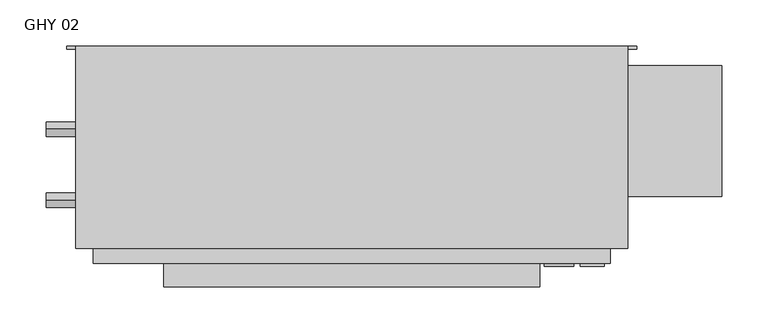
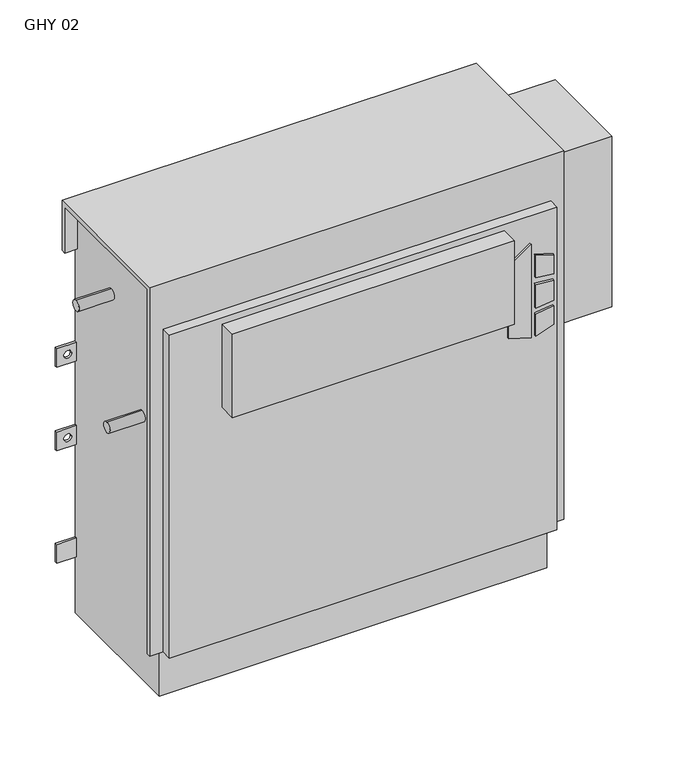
"""IFC4 building model written with IfcOpenShell, lengths in millimetres: proxy geometry, Vertical_Fan_Coil_Unit_-_GHY_-_IEC_-_2-Pipe_FS-FR_LH_2022 : GHY 02."""

from ifc_helpers import new_model, si_unit, point, frame, frame_2d, origin, place, context, project, spatial, polyline, circle_curve, trimmed, segment, composite_curve, outline, extrude, source, transform, mapped, element, save
from ifc_brep_helpers import plane_surface, revolved_surface, advanced_brep


def ghy_02_9b4a4b5f(model_context):
    return source(origin(), model_context, "Body", "SolidModel", [
        extrude(outline(polyline([(391.6086829, 360.4368862), (381.6606126, 392.6102728), (523.831537, 392.6102728), (500.8095309, 360.4368862), (391.6086829, 360.4368862)])), frame((0.0, 6.35, 0.0), z_axis=(0.0, 1.0, 0.0), x_axis=(0.0, 0.0, 1.0)), (0.0, 0.0, 1.0), 3.175),
        extrude(outline(polyline([(470.6079683, 399.3686058), (467.4055757, 425.45), (496.6344168, 425.45), (504.6988318, 399.3686058), (470.6079683, 399.3686058)])), frame((0.0, 6.35, 0.0), z_axis=(0.0, 1.0, 0.0), x_axis=(0.0, 0.0, 1.0)), (0.0, 0.0, 1.0), 3.175),
        extrude(outline(polyline([(418.7444414, 425.45), (415.0789404, 399.3686058), (381.6606126, 399.3686058), (390.2948498, 425.45), (418.7444414, 425.45)])), frame((0.0, 6.35, 0.0), z_axis=(0.0, 1.0, 0.0), x_axis=(0.0, 0.0, 1.0)), (0.0, 0.0, 1.0), 3.175),
        extrude(outline(polyline([(458.0596028, 425.45), (460.3414292, 399.3686058), (424.4038806, 399.3686058), (427.1451456, 425.45), (458.0596028, 425.45)])), frame((0.0, 6.35, 0.0), z_axis=(0.0, 1.0, 0.0), x_axis=(0.0, 0.0, 1.0)), (0.0, 0.0, 1.0), 3.175),
        extrude(outline(polyline([(355.6, -15.875), (-50.8, -15.875), (-50.8, 9.525), (355.6, 9.525), (355.6, -15.875)])), frame((0.0, 0.0, 428.625), z_axis=(0.0, 0.0, 1.0), x_axis=(1.0, 0.0, 0.0)), (0.0, 0.0, 1.0), 127.0),
        extrude(outline(composite_curve([segment(trimmed(circle_curve(frame_2d((77.597, 401.574)), 7.9375), [point((77.597, 409.5115))], [point((77.597, 393.6365))], False, "CARTESIAN"), True, "CONTINUOUS"), segment(trimmed(circle_curve(frame_2d((77.597, 401.574)), 7.9375), [point((77.597, 393.6365))], [point((77.597, 409.5115))], False, "CARTESIAN"), True, "CONTINUOUS")], self_intersect=False)), frame((-177.8, 0.0, 0.0), z_axis=(1.0, 0.0, 0.0), x_axis=(0.0, 1.0, 0.0)), (0.0, 0.0, 1.0), 50.8),
        extrude(outline(composite_curve([segment(trimmed(circle_curve(frame_2d((154.559, 540.512)), 7.9375), [point((154.559, 548.4495))], [point((154.559, 532.5745))], False, "CARTESIAN"), True, "CONTINUOUS"), segment(trimmed(circle_curve(frame_2d((154.559, 540.512)), 7.9375), [point((154.559, 532.5745))], [point((154.559, 548.4495))], False, "CARTESIAN"), True, "CONTINUOUS")], self_intersect=False)), frame((-177.8, 0.0, 0.0), z_axis=(1.0, 0.0, 0.0), x_axis=(0.0, 1.0, 0.0)), (0.0, 0.0, 1.0), 50.8),
        extrude(outline(polyline([(552.45, 223.266), (552.45, 81.534), (431.8, 81.534), (431.8, 223.266), (552.45, 223.266)])), frame((0.0, 0.0, 327.025), z_axis=(0.0, 0.0, 1.0), x_axis=(1.0, 0.0, 0.0)), (0.0, 0.0, 1.0), 260.35),
        advanced_brep(
        [(450.85, 244.475, 635.0), (-146.05, 244.475, 635.0), (-146.05, 25.4, 635.0), (450.85, 25.4, 635.0), (-127.0, 244.475, 0.0), (431.8, 244.475, 0.0), (431.8, 34.925, 0.0), (-127.0, 34.925, 0.0), (450.85, 244.475, 558.8), (431.8, 244.475, 558.8), (431.8, 244.475, 414.3375), (460.375, 244.475, 414.3375), (460.375, 244.475, 385.7625), (431.8, 244.475, 385.7625), (431.8, 244.475, 287.3375), (460.375, 244.475, 287.3375), (460.375, 244.475, 258.7625), (431.8, 244.475, 258.7625), (431.8, 244.475, 141.2875), (460.375, 244.475, 141.2875), (460.375, 244.475, 112.7125), (431.8, 244.475, 112.7125), (-127.0, 244.475, 87.3125), (-155.575, 244.475, 87.3125), (-155.575, 244.475, 115.8875), (-127.0, 244.475, 115.8875), (-127.0, 244.475, 258.7625), (-155.575, 244.475, 258.7625), (-155.575, 244.475, 287.3375), (-127.0, 244.475, 287.3375), (-127.0, 244.475, 385.7625), (-155.575, 244.475, 385.7625), (-155.575, 244.475, 414.3375), (-127.0, 244.475, 414.3375), (-127.0, 244.475, 558.8), (-146.05, 244.475, 558.8), (450.0626, 244.475, 127.0), (438.9374, 244.475, 127.0), (450.0626, 244.475, 273.05), (438.9374, 244.475, 273.05), (-134.1374, 244.475, 273.05), (-145.2626, 244.475, 273.05), (450.0626, 244.475, 400.05), (438.9374, 244.475, 400.05), (-134.1374, 244.475, 400.05), (-145.2626, 244.475, 400.05), (-146.05, 238.125, 558.8), (-146.05, 238.125, 628.65), (-146.05, 31.75, 628.65), (-146.05, 31.75, 73.025), (-146.05, 25.4, 73.025), (431.8, 9.525, 565.15), (-127.0, 9.525, 565.15), (-127.0, 9.525, 73.025), (431.8, 9.525, 73.025), (450.85, 25.4, 73.025), (450.85, 31.75, 73.025), (450.85, 31.75, 628.65), (450.85, 238.125, 628.65), (450.85, 238.125, 558.8), (-127.0, 25.4, 73.025), (-127.0, 25.4, 565.15), (431.8, 25.4, 565.15), (431.8, 25.4, 73.025), (-127.0, 31.75, 73.025), (-127.0, 34.925, 73.025), (431.8, 34.925, 73.025), (431.8, 31.75, 73.025), (431.8, 241.3, 112.7125), (431.8, 241.3, 141.2875), (431.8, 241.3, 258.7625), (431.8, 241.3, 287.3375), (431.8, 241.3, 385.7625), (431.8, 241.3, 414.3375), (431.8, 238.125, 558.8), (431.8, 238.125, 628.65), (431.8, 31.75, 628.65), (-127.0, 31.75, 628.65), (-127.0, 238.125, 628.65), (-127.0, 238.125, 558.8), (-127.0, 241.3, 414.3375), (-127.0, 241.3, 385.7625), (-127.0, 241.3, 287.3375), (-127.0, 241.3, 258.7625), (-127.0, 241.3, 115.8875), (-127.0, 241.3, 87.3125), (460.375, 241.3, 112.7125), (460.375, 241.3, 141.2875), (438.9374, 241.3, 127.0), (450.0626, 241.3, 127.0), (460.375, 241.3, 258.7625), (460.375, 241.3, 287.3375), (438.9374, 241.3, 273.05), (450.0626, 241.3, 273.05), (460.375, 241.3, 385.7625), (460.375, 241.3, 414.3375), (438.9374, 241.3, 400.05), (450.0626, 241.3, 400.05), (-155.575, 241.3, 115.8875), (-155.575, 241.3, 87.3125), (-155.575, 241.3, 287.3375), (-155.575, 241.3, 258.7625), (-145.2626, 241.3, 273.05), (-134.1374, 241.3, 273.05), (-155.575, 241.3, 414.3375), (-155.575, 241.3, 385.7625), (-145.2626, 241.3, 400.05), (-134.1374, 241.3, 400.05)],
        [
            (0, 1),
            (1, 2),
            (2, 3),
            (3, 0),
            (4, 5),
            (5, 6),
            (6, 7),
            (7, 4),
            (0, 8),
            (8, 9),
            (9, 10),
            (10, 11),
            (11, 12),
            (12, 13),
            (13, 14),
            (14, 15),
            (15, 16),
            (16, 17),
            (17, 18),
            (18, 19),
            (19, 20),
            (20, 21),
            (21, 5),
            (4, 22),
            (22, 23),
            (23, 24),
            (24, 25),
            (25, 26),
            (26, 27),
            (27, 28),
            (28, 29),
            (29, 30),
            (30, 31),
            (31, 32),
            (32, 33),
            (33, 34),
            (34, 35),
            (35, 1),
            (36, 37, circle_curve(frame((444.5, 244.475, 127.0), z_axis=(0.0, -1.0, 0.0), x_axis=(-1.0, 0.0, 0.0)), 5.5626)),
            (37, 36, circle_curve(frame((444.5, 244.475, 127.0), z_axis=(0.0, -1.0, 0.0), x_axis=(-1.0, 0.0, 0.0)), 5.5626)),
            (38, 39, circle_curve(frame((444.5, 244.475, 273.05), z_axis=(0.0, -1.0, 0.0), x_axis=(-1.0, 0.0, 0.0)), 5.5626)),
            (39, 38, circle_curve(frame((444.5, 244.475, 273.05), z_axis=(0.0, -1.0, 0.0), x_axis=(-1.0, 0.0, 0.0)), 5.5626)),
            (40, 41, circle_curve(frame((-139.7, 244.475, 273.05), z_axis=(0.0, -1.0, 0.0), x_axis=(-1.0, 0.0, 0.0)), 5.5626)),
            (41, 40, circle_curve(frame((-139.7, 244.475, 273.05), z_axis=(0.0, -1.0, 0.0), x_axis=(-1.0, 0.0, 0.0)), 5.5626)),
            (42, 43, circle_curve(frame((444.5, 244.475, 400.05), z_axis=(0.0, -1.0, 0.0), x_axis=(-1.0, 0.0, 0.0)), 5.5626)),
            (43, 42, circle_curve(frame((444.5, 244.475, 400.05), z_axis=(0.0, -1.0, 0.0), x_axis=(-1.0, 0.0, 0.0)), 5.5626)),
            (44, 45, circle_curve(frame((-139.7, 244.475, 400.05), z_axis=(0.0, -1.0, 0.0), x_axis=(-1.0, 0.0, 0.0)), 5.5626)),
            (45, 44, circle_curve(frame((-139.7, 244.475, 400.05), z_axis=(0.0, -1.0, 0.0), x_axis=(-1.0, 0.0, 0.0)), 5.5626)),
            (35, 46),
            (46, 47),
            (47, 48),
            (48, 49),
            (49, 50),
            (50, 2),
            (51, 52),
            (52, 53),
            (53, 54),
            (54, 51),
            (3, 55),
            (55, 56),
            (56, 57),
            (57, 58),
            (58, 59),
            (59, 8),
            (50, 60),
            (60, 61),
            (61, 62),
            (62, 63),
            (63, 55),
            (51, 62),
            (61, 52),
            (53, 60),
            (49, 64),
            (64, 65),
            (65, 66),
            (66, 67),
            (67, 56),
            (63, 54),
            (6, 66),
            (65, 7),
            (21, 68),
            (68, 69),
            (69, 18),
            (17, 70),
            (70, 71),
            (71, 14),
            (13, 72),
            (72, 73),
            (73, 10),
            (9, 74),
            (74, 75),
            (75, 76),
            (76, 67),
            (64, 77),
            (77, 78),
            (78, 79),
            (79, 34),
            (33, 80),
            (80, 81),
            (81, 30),
            (29, 82),
            (82, 83),
            (83, 26),
            (25, 84),
            (84, 85),
            (85, 22),
            (74, 59),
            (58, 75),
            (76, 57),
            (48, 77),
            (79, 46),
            (78, 47),
            (68, 86),
            (86, 87),
            (87, 69),
            (88, 89, circle_curve(frame((444.5, 241.3, 127.0), z_axis=(0.0, 1.0, 0.0), x_axis=(-1.0, 0.0, 0.0)), 5.5626)),
            (89, 88, circle_curve(frame((444.5, 241.3, 127.0), z_axis=(0.0, 1.0, 0.0), x_axis=(-1.0, 0.0, 0.0)), 5.5626)),
            (90, 91),
            (91, 71),
            (70, 90),
            (92, 93, circle_curve(frame((444.5, 241.3, 273.05), z_axis=(0.0, 1.0, 0.0), x_axis=(-1.0, 0.0, 0.0)), 5.5626)),
            (93, 92, circle_curve(frame((444.5, 241.3, 273.05), z_axis=(0.0, 1.0, 0.0), x_axis=(-1.0, 0.0, 0.0)), 5.5626)),
            (94, 95),
            (95, 73),
            (72, 94),
            (96, 97, circle_curve(frame((444.5, 241.3, 400.05), z_axis=(0.0, 1.0, 0.0), x_axis=(-1.0, 0.0, 0.0)), 5.5626)),
            (97, 96, circle_curve(frame((444.5, 241.3, 400.05), z_axis=(0.0, 1.0, 0.0), x_axis=(-1.0, 0.0, 0.0)), 5.5626)),
            (98, 99),
            (99, 85),
            (84, 98),
            (82, 100),
            (100, 101),
            (101, 83),
            (102, 103, circle_curve(frame((-139.7, 241.3, 273.05), z_axis=(0.0, 1.0, 0.0), x_axis=(-1.0, 0.0, 0.0)), 5.5626)),
            (103, 102, circle_curve(frame((-139.7, 241.3, 273.05), z_axis=(0.0, 1.0, 0.0), x_axis=(-1.0, 0.0, 0.0)), 5.5626)),
            (104, 105),
            (105, 81),
            (80, 104),
            (106, 107, circle_curve(frame((-139.7, 241.3, 400.05), z_axis=(0.0, 1.0, 0.0), x_axis=(-1.0, 0.0, 0.0)), 5.5626)),
            (107, 106, circle_curve(frame((-139.7, 241.3, 400.05), z_axis=(0.0, 1.0, 0.0), x_axis=(-1.0, 0.0, 0.0)), 5.5626)),
            (87, 19),
            (86, 20),
            (16, 90),
            (91, 15),
            (12, 94),
            (95, 11),
            (24, 98),
            (99, 23),
            (101, 27),
            (100, 28),
            (32, 104),
            (105, 31),
            (88, 37),
            (36, 89),
            (92, 39),
            (38, 93),
            (102, 41),
            (40, 103),
            (96, 43),
            (42, 97),
            (106, 45),
            (44, 107),
        ],
        [
            plane_surface(frame((-146.05, 244.475, 635.0), z_axis=(0.0, 0.0, 1.0), x_axis=(-1.0, 0.0, 0.0))),
            plane_surface(frame((-146.05, 244.475, 0.0), z_axis=(0.0, 0.0, -1.0), x_axis=(1.0, 0.0, 0.0))),
            plane_surface(frame((450.85, 244.475, 635.0), z_axis=(0.0, 1.0, 0.0), x_axis=(0.0, 0.0, -1.0))),
            plane_surface(frame((-146.05, 244.475, 635.0), z_axis=(-1.0, 0.0, 0.0), x_axis=(0.0, 0.0, -1.0))),
            plane_surface(frame((-146.05, 9.525, 635.0), z_axis=(0.0, -1.0, 0.0), x_axis=(0.0, 0.0, -1.0))),
            plane_surface(frame((450.85, 9.525, 635.0), z_axis=(1.0, 0.0, 0.0), x_axis=(0.0, 0.0, -1.0))),
            plane_surface(frame((-146.05, 25.4, 635.0), z_axis=(0.0, -1.0, 0.0), x_axis=(1.0, 0.0, 0.0))),
            plane_surface(frame((-146.05, 25.4, 565.15), z_axis=(0.0, 0.0, 1.0), x_axis=(1.0, 0.0, 0.0))),
            plane_surface(frame((-146.05, 9.525, 73.025), z_axis=(0.0, 0.0, -1.0), x_axis=(1.0, 0.0, 0.0))),
            plane_surface(frame((-146.05, 34.925, 73.025), z_axis=(0.0, -1.0, 0.0), x_axis=(1.0, 0.0, 0.0))),
            plane_surface(frame((431.8, 25.4, 73.025), z_axis=(1.0, 0.0, 0.0), x_axis=(0.0, -1.0, 0.0))),
            plane_surface(frame((-127.0, 25.4, 565.15), z_axis=(-1.0, 0.0, 0.0), x_axis=(0.0, -1.0, 0.0))),
            plane_surface(frame((431.8, 244.475, 0.0), z_axis=(1.0, 0.0, 0.0), x_axis=(0.0, -1.0, 0.0))),
            plane_surface(frame((-127.0, 244.475, 73.025), z_axis=(-1.0, 0.0, 0.0), x_axis=(0.0, -1.0, 0.0))),
            plane_surface(frame((431.8, 238.125, 628.65), z_axis=(0.0, -1.0, 0.0), x_axis=(1.0, 0.0, 0.0))),
            plane_surface(frame((431.8, 238.125, 558.8), z_axis=(0.0, 0.0, -1.0), x_axis=(1.0, 0.0, 0.0))),
            plane_surface(frame((431.8, 31.75, 73.025), z_axis=(0.0, 1.0, 0.0), x_axis=(1.0, 0.0, 0.0))),
            plane_surface(frame((431.8, 31.75, 628.65), z_axis=(0.0, 0.0, -1.0), x_axis=(1.0, 0.0, 0.0))),
            plane_surface(frame((-127.0, 31.75, 628.65), z_axis=(0.0, 1.0, 0.0), x_axis=(-1.0, 0.0, 0.0))),
            plane_surface(frame((-127.0, 244.475, 558.8), z_axis=(0.0, 0.0, -1.0), x_axis=(-1.0, 0.0, 0.0))),
            plane_surface(frame((-127.0, 238.125, 558.8), z_axis=(0.0, -1.0, 0.0), x_axis=(-1.0, 0.0, 0.0))),
            plane_surface(frame((-127.0, 238.125, 628.65), z_axis=(0.0, 0.0, -1.0), x_axis=(-1.0, 0.0, 0.0))),
            plane_surface(frame((460.375, 241.3, 141.2875), z_axis=(0.0, -1.0, 0.0), x_axis=(-1.0, 0.0, 0.0))),
            plane_surface(frame((431.8, 244.475, 141.2875), z_axis=(0.0, 0.0, 1.0), x_axis=(0.0, -1.0, 0.0))),
            plane_surface(frame((460.375, 244.475, 141.2875), z_axis=(1.0, 0.0, 0.0), x_axis=(0.0, -1.0, 0.0))),
            plane_surface(frame((460.375, 244.475, 112.7125), z_axis=(0.0, 0.0, -1.0), x_axis=(0.0, -1.0, 0.0))),
            plane_surface(frame((460.375, 244.475, 258.7625), z_axis=(0.0, 0.0, -1.0), x_axis=(0.0, -1.0, 0.0))),
            plane_surface(frame((431.8, 244.475, 287.3375), z_axis=(0.0, 0.0, 1.0), x_axis=(0.0, -1.0, 0.0))),
            plane_surface(frame((460.375, 244.475, 287.3375), z_axis=(1.0, 0.0, 0.0), x_axis=(0.0, -1.0, 0.0))),
            plane_surface(frame((460.375, 244.475, 385.7625), z_axis=(0.0, 0.0, -1.0), x_axis=(0.0, -1.0, 0.0))),
            plane_surface(frame((431.8, 244.475, 414.3375), z_axis=(0.0, 0.0, 1.0), x_axis=(0.0, -1.0, 0.0))),
            plane_surface(frame((460.375, 244.475, 414.3375), z_axis=(1.0, 0.0, 0.0), x_axis=(0.0, -1.0, 0.0))),
            plane_surface(frame((-155.575, 244.475, 115.8875), z_axis=(0.0, 0.0, 1.0), x_axis=(0.0, -1.0, 0.0))),
            plane_surface(frame((-127.0, 244.475, 87.3125), z_axis=(0.0, 0.0, -1.0), x_axis=(0.0, -1.0, 0.0))),
            plane_surface(frame((-155.575, 244.475, 87.3125), z_axis=(-1.0, 0.0, 0.0), x_axis=(0.0, -1.0, 0.0))),
            plane_surface(frame((-127.0, 244.475, 258.7625), z_axis=(0.0, 0.0, -1.0), x_axis=(0.0, -1.0, 0.0))),
            plane_surface(frame((-155.575, 244.475, 258.7625), z_axis=(-1.0, 0.0, 0.0), x_axis=(0.0, -1.0, 0.0))),
            plane_surface(frame((-155.575, 244.475, 287.3375), z_axis=(0.0, 0.0, 1.0), x_axis=(0.0, -1.0, 0.0))),
            plane_surface(frame((-155.575, 244.475, 414.3375), z_axis=(0.0, 0.0, 1.0), x_axis=(0.0, -1.0, 0.0))),
            plane_surface(frame((-127.0, 244.475, 385.7625), z_axis=(0.0, 0.0, -1.0), x_axis=(0.0, -1.0, 0.0))),
            plane_surface(frame((-155.575, 244.475, 385.7625), z_axis=(-1.0, 0.0, 0.0), x_axis=(0.0, -1.0, 0.0))),
            revolved_surface(polyline([(438.9374, 241.3, 127.0), (438.9374, 244.475, 127.0)]), (444.5, 244.475, 127.0), (0.0, -1.0, 0.0)),
            revolved_surface(polyline([(438.9374, 241.3, 273.05), (438.9374, 244.475, 273.05)]), (444.5, 244.475, 273.05), (0.0, -1.0, 0.0)),
            revolved_surface(polyline([(-145.2626, 241.3, 273.05), (-145.2626, 244.475, 273.05)]), (-139.7, 244.475, 273.05), (0.0, -1.0, 0.0)),
            revolved_surface(polyline([(438.9374, 241.3, 400.05), (438.9374, 244.475, 400.05)]), (444.5, 244.475, 400.05), (0.0, -1.0, 0.0)),
            revolved_surface(polyline([(-145.2626, 241.3, 400.05), (-145.2626, 244.475, 400.05)]), (-139.7, 244.475, 400.05), (0.0, -1.0, 0.0)),
        ],
        [
            (0, [[1, 2, 3, 4]]),
            (1, [[5, 6, 7, 8]]),
            (2, [[-1, 9, 10, 11, 12, 13, 14, 15, 16, 17, 18, 19, 20, 21, 22, 23, -5, 24, 25, 26, 27, 28, 29, 30, 31, 32, 33, 34, 35, 36, 37, 38], [39, 40], [41, 42], [43, 44], [45, 46], [47, 48]]),
            (3, [[-2, -38, 49, 50, 51, 52, 53, 54]]),
            (4, [[55, 56, 57, 58]]),
            (5, [[-4, 59, 60, 61, 62, 63, 64, -9]]),
            (6, [[-3, -54, 65, 66, 67, 68, 69, -59]]),
            (7, [[-55, 70, -67, 71]]),
            (8, [[-57, 72, -65, -53, 73, 74, 75, 76, 77, -60, -69, 78]]),
            (9, [[-7, 79, -75, 80]]),
            (10, [[-68, -70, -58, -78]]),
            (11, [[-66, -72, -56, -71]]),
            (12, [[-6, -23, 81, 82, 83, -19, 84, 85, 86, -15, 87, 88, 89, -11, 90, 91, 92, 93, -76, -79]]),
            (13, [[-8, -80, -74, 94, 95, 96, 97, -36, 98, 99, 100, -32, 101, 102, 103, -28, 104, 105, 106, -24]]),
            (14, [[-91, 107, -63, 108]]),
            (15, [[-90, -10, -64, -107]]),
            (16, [[-93, 109, -61, -77]]),
            (17, [[-92, -108, -62, -109]]),
            (18, [[-94, -73, -52, 110]]),
            (19, [[-97, 111, -49, -37]]),
            (20, [[-96, 112, -50, -111]]),
            (21, [[-95, -110, -51, -112]]),
            (22, [[113, 114, 115, -82], [116, 117]]),
            (22, [[118, 119, -85, 120], [121, 122]]),
            (22, [[123, 124, -88, 125], [126, 127]]),
            (22, [[128, 129, -105, 130]]),
            (22, [[131, 132, 133, -102], [134, 135]]),
            (22, [[136, 137, -99, 138], [139, 140]]),
            (23, [[-115, 141, -20, -83]]),
            (24, [[-114, 142, -21, -141]]),
            (25, [[-113, -81, -22, -142]]),
            (26, [[-120, -84, -18, 143]]),
            (27, [[-119, 144, -16, -86]]),
            (28, [[-118, -143, -17, -144]]),
            (29, [[-125, -87, -14, 145]]),
            (30, [[-124, 146, -12, -89]]),
            (31, [[-123, -145, -13, -146]]),
            (32, [[-130, -104, -27, 147]]),
            (33, [[-129, 148, -25, -106]]),
            (34, [[-128, -147, -26, -148]]),
            (35, [[-133, 149, -29, -103]]),
            (36, [[-132, 150, -30, -149]]),
            (37, [[-131, -101, -31, -150]]),
            (38, [[-138, -98, -35, 151]]),
            (39, [[-137, 152, -33, -100]]),
            (40, [[-136, -151, -34, -152]]),
            (41, [[153, -39, 154, -116]]),
            (41, [[-153, -117, -154, -40]]),
            (42, [[155, -41, 156, -121]]),
            (42, [[-155, -122, -156, -42]]),
            (43, [[157, -43, 158, -134]]),
            (43, [[-157, -135, -158, -44]]),
            (44, [[159, -45, 160, -126]]),
            (44, [[-159, -127, -160, -46]]),
            (45, [[161, -47, 162, -139]]),
            (45, [[-161, -140, -162, -48]]),
        ],
    ),
    ])


if __name__ == "__main__":
    model = new_model("IFC4")
    model_context = context("Model", 3, world=origin())
    ifc_project = project(units=[si_unit("LENGTHUNIT", "METRE", prefix="MILLI")], contexts=[model_context])
    site = spatial("IfcSite", under=ifc_project)
    building = spatial("IfcBuilding", under=site)
    placement = place(None, origin())
    ghy_02_shape = ghy_02_9b4a4b5f(model_context)
    element("IfcBuildingElementProxy", 1, Name="Vertical_Fan_Coil_Unit_-_GHY_-_IEC_-_2-Pipe_FS-FR_LH_2022 : GHY 02", ObjectType="Vertical_Fan_Coil_Unit_-_GHY_-_IEC_-_2-Pipe_FS-FR_LH_2022 : GHY 02", at=placement, inside=building, context=model_context, shape_type="MappedRepresentation", body=[
        mapped(ghy_02_shape, transform((0.0, 0.0, 0.0), x_axis=(1.0, 0.0, 0.0), y_axis=(0.0, 1.0, 0.0), z_axis=(0.0, 0.0, 1.0))),
    ])
    save(model, "model.ifc")
